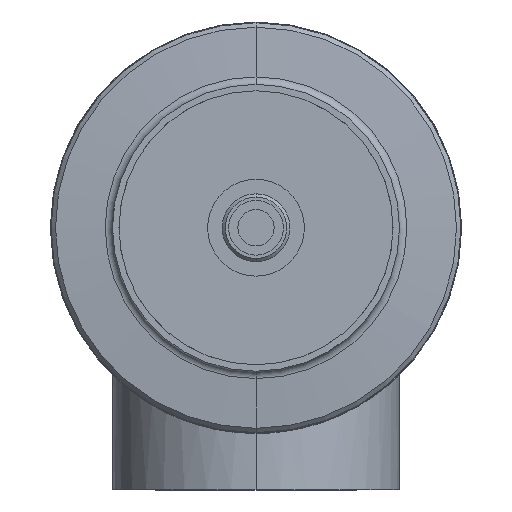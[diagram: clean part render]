
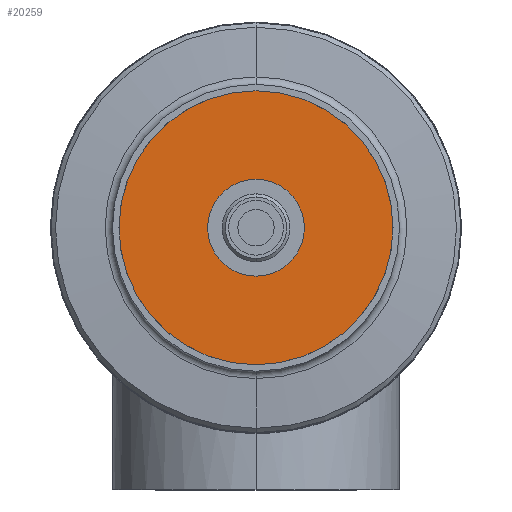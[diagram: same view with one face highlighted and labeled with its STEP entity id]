
A CAD part, front view. The second image highlights one B-rep face of the part: STEP entity #20259.
In plain terms, the highlighted planar face has unit normal (0, -1, 0).
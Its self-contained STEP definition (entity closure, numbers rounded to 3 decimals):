
#58 = CIRCLE ( 'NONE', #59, 60. ) ;
#59 = AXIS2_PLACEMENT_3D ( 'NONE', #60, #61, #62 ) ;
#60 = CARTESIAN_POINT ( 'NONE',  ( 0., -58., 0. ) ) ;
#61 = DIRECTION ( 'NONE',  ( 0., -1., 0. ) ) ;
#62 = DIRECTION ( 'NONE',  ( 0., 0., -1. ) ) ;
#16912 = CARTESIAN_POINT ( 'NONE',  ( 0., -58., 185. ) ) ;
#556 = VERTEX_POINT ( 'NONE', #16912 ) ;
#17306 = CARTESIAN_POINT ( 'NONE',  ( 0., -58., -185. ) ) ;
#955 = CIRCLE ( 'NONE', #956, 185. ) ;
#956 = AXIS2_PLACEMENT_3D ( 'NONE', #957, #958, #959 ) ;
#957 = CARTESIAN_POINT ( 'NONE',  ( 0., -58., 0. ) ) ;
#958 = DIRECTION ( 'NONE',  ( 0., -1., 0. ) ) ;
#959 = DIRECTION ( 'NONE',  ( 0., 0., -1. ) ) ;
#974 = VERTEX_POINT ( 'NONE', #17306 ) ;
#17571 = CIRCLE ( 'NONE', #17572, 185. ) ;
#17572 = AXIS2_PLACEMENT_3D ( 'NONE', #17573, #17574, #17575 ) ;
#17573 = CARTESIAN_POINT ( 'NONE',  ( 0., -58., 0. ) ) ;
#17574 = DIRECTION ( 'NONE',  ( 0., -1., 0. ) ) ;
#17575 = DIRECTION ( 'NONE',  ( 0., 0., -1. ) ) ;
#1386 = EDGE_CURVE ( 'NONE', #974, #556, #17571, .T. ) ;
#1408 = CARTESIAN_POINT ( 'NONE',  ( 0., -58., 60. ) ) ;
#18156 = EDGE_CURVE ( 'NONE', #9846, #10967, #13934, .T. ) ;
#18851 = ORIENTED_EDGE ( 'NONE', *, *, #18156, .F. ) ;
#19812 = EDGE_LOOP ( 'NONE', ( #18851, #7292 ) ) ;
#20259 = ADVANCED_FACE ( 'NONE', ( #14766, #14767 ), #14768, .T. ) ;
#21222 = CARTESIAN_POINT ( 'NONE',  ( 0., -58., -60. ) ) ;
#6049 = ORIENTED_EDGE ( 'NONE', *, *, #1386, .T. ) ;
#6567 = ORIENTED_EDGE ( 'NONE', *, *, #23237, .T. ) ;
#23237 = EDGE_CURVE ( 'NONE', #556, #974, #955, .T. ) ;
#7090 = EDGE_LOOP ( 'NONE', ( #6567, #6049 ) ) ;
#7292 = ORIENTED_EDGE ( 'NONE', *, *, #10072, .F. ) ;
#9846 = VERTEX_POINT ( 'NONE', #21222 ) ;
#10072 = EDGE_CURVE ( 'NONE', #10967, #9846, #58, .T. ) ;
#10967 = VERTEX_POINT ( 'NONE', #1408 ) ;
#13934 = CIRCLE ( 'NONE', #13935, 60. ) ;
#13935 = AXIS2_PLACEMENT_3D ( 'NONE', #13936, #13940, #13941 ) ;
#13936 = CARTESIAN_POINT ( 'NONE',  ( 0., -58., 0. ) ) ;
#13940 = DIRECTION ( 'NONE',  ( 0., -1., 0. ) ) ;
#13941 = DIRECTION ( 'NONE',  ( 0., 0., -1. ) ) ;
#14766 = FACE_BOUND ( 'NONE', #19812, .T. ) ;
#14767 = FACE_OUTER_BOUND ( 'NONE', #7090, .T. ) ;
#14768 = PLANE ( 'NONE',  #14769 ) ;
#14769 = AXIS2_PLACEMENT_3D ( 'NONE', #14770, #14771, #14772 ) ;
#14770 = CARTESIAN_POINT ( 'NONE',  ( 0., -58., 0. ) ) ;
#14771 = DIRECTION ( 'NONE',  ( 0., -1., 0. ) ) ;
#14772 = DIRECTION ( 'NONE',  ( 0., 0., -1. ) ) ;
